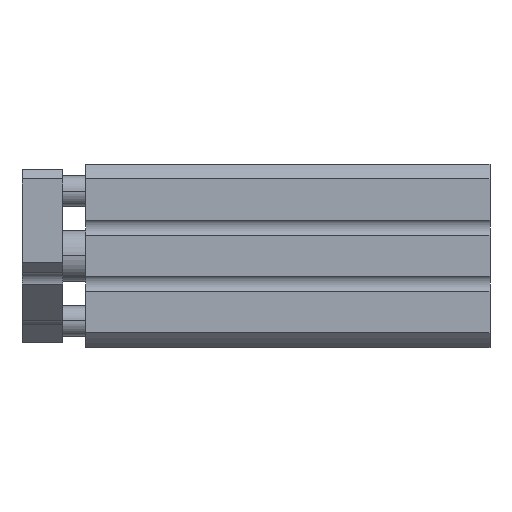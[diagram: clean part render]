
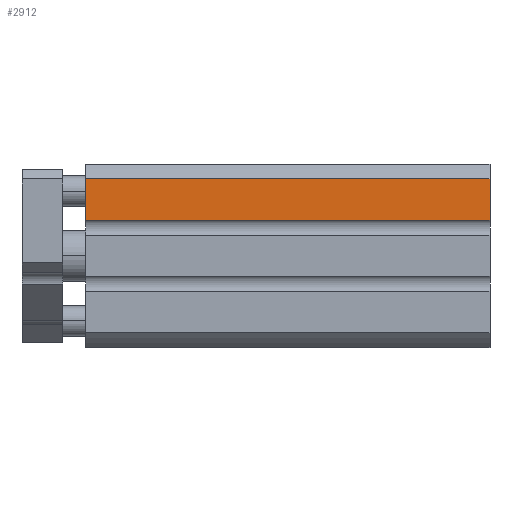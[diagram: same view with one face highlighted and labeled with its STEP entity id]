
A CAD part, top view. The second image highlights one B-rep face of the part: STEP entity #2912.
In plain terms, the highlighted planar face has unit normal (0, 0, 1).
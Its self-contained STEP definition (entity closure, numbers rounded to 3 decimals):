
#330 = CARTESIAN_POINT ( 'NONE',  ( 79.5, 15.108, 18. ) ) ;
#370 = VERTEX_POINT ( 'NONE', #3914 ) ;
#749 = VERTEX_POINT ( 'NONE', #4652 ) ;
#774 = DIRECTION ( 'NONE',  ( 0., -1., 0. ) ) ;
#881 = CARTESIAN_POINT ( 'NONE',  ( 79.5, 15.108, 18. ) ) ;
#951 = DIRECTION ( 'NONE',  ( 0., -1., 0. ) ) ;
#972 = CARTESIAN_POINT ( 'NONE',  ( 0., 15.108, 18. ) ) ;
#1198 = DIRECTION ( 'NONE',  ( -1., 0., 0. ) ) ;
#1699 = LINE ( 'NONE', #3900, #4735 ) ;
#1734 = ORIENTED_EDGE ( 'NONE', *, *, #4752, .T. ) ;
#1869 = DIRECTION ( 'NONE',  ( 0., 0., -1. ) ) ;
#2040 = ORIENTED_EDGE ( 'NONE', *, *, #3644, .F. ) ;
#2041 = CARTESIAN_POINT ( 'NONE',  ( 0., 15.108, 18. ) ) ;
#2078 = VECTOR ( 'NONE', #1198, 1000. ) ;
#2138 = DIRECTION ( 'NONE',  ( 0., -1., 0. ) ) ;
#2331 = LINE ( 'NONE', #881, #2078 ) ;
#2609 = CARTESIAN_POINT ( 'NONE',  ( 79.5, 15.108, 18. ) ) ;
#2674 = VERTEX_POINT ( 'NONE', #4191 ) ;
#2815 = LINE ( 'NONE', #972, #4051 ) ;
#2912 = ADVANCED_FACE ( 'NONE', ( #2979 ), #4416, .F. ) ;
#2979 = FACE_OUTER_BOUND ( 'NONE', #4355, .T. ) ;
#3009 = ORIENTED_EDGE ( 'NONE', *, *, #4591, .T. ) ;
#3211 = ORIENTED_EDGE ( 'NONE', *, *, #3924, .F. ) ;
#3308 = VECTOR ( 'NONE', #774, 1000. ) ;
#3621 = DIRECTION ( 'NONE',  ( -1., 0., 0. ) ) ;
#3644 = EDGE_CURVE ( 'NONE', #2674, #749, #4146, .T. ) ;
#3841 = VERTEX_POINT ( 'NONE', #2041 ) ;
#3900 = CARTESIAN_POINT ( 'NONE',  ( 79.5, 7., 18. ) ) ;
#3914 = CARTESIAN_POINT ( 'NONE',  ( 0., 7., 18. ) ) ;
#3924 = EDGE_CURVE ( 'NONE', #749, #370, #1699, .T. ) ;
#4051 = VECTOR ( 'NONE', #951, 1000. ) ;
#4146 = LINE ( 'NONE', #330, #3308 ) ;
#4191 = CARTESIAN_POINT ( 'NONE',  ( 79.5, 15.108, 18. ) ) ;
#4355 = EDGE_LOOP ( 'NONE', ( #1734, #3211, #2040, #3009 ) ) ;
#4416 = PLANE ( 'NONE',  #4597 ) ;
#4591 = EDGE_CURVE ( 'NONE', #2674, #3841, #2331, .T. ) ;
#4597 = AXIS2_PLACEMENT_3D ( 'NONE', #2609, #1869, #2138 ) ;
#4652 = CARTESIAN_POINT ( 'NONE',  ( 79.5, 7., 18. ) ) ;
#4735 = VECTOR ( 'NONE', #3621, 1000. ) ;
#4752 = EDGE_CURVE ( 'NONE', #3841, #370, #2815, .T. ) ;
